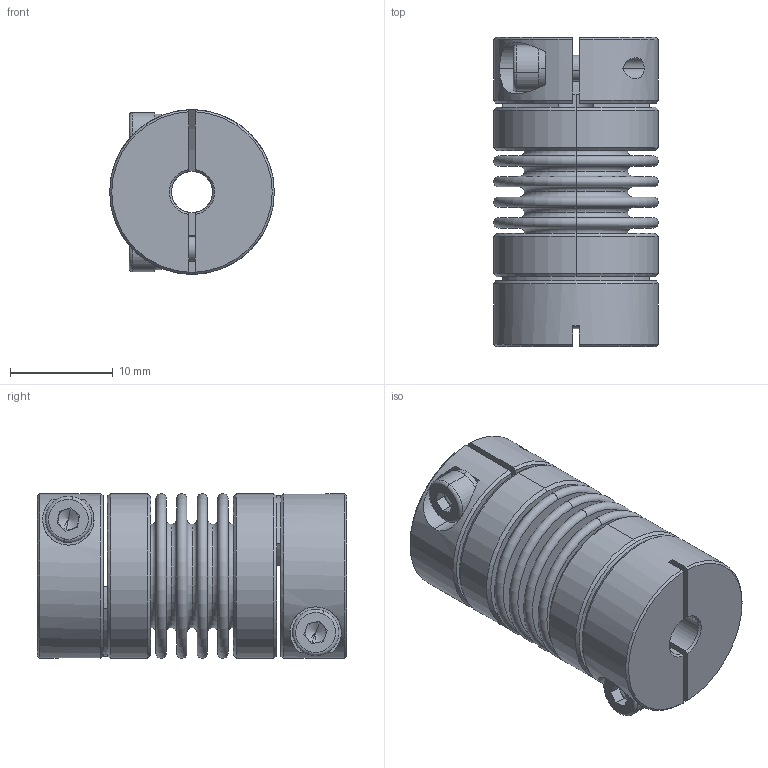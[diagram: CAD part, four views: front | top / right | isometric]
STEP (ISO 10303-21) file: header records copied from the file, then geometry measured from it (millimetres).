
FILE_DESCRIPTION (( 'STEP AP203' ), '1' );
FILE_NAME ('LB-B-D16L30-4-4.STEP', '2021-11-04T01:10:43', ( '' ), ( '' ), 'SwSTEP 2.0', 'SolidWorks 2018', '' );
FILE_SCHEMA (( 'CONFIG_CONTROL_DESIGN' ));
Length unit declared in the file: millimetre
Products named in the file (2): LB-B-D16L30-4-4; 零件1^LB-B-D16L30 波纹管联轴器-组装体
Assembly tree (1 placements, depth 2):
  LB-B-D16L30-4-4
    零件1^LB-B-D16L30 波纹管联轴器-组装体
Bounding box: 16 x 30.04 x 16 mm (x, y, z)
Volume: 3400.9 mm3; surface area: 6483.8 mm2
Topology: 1 solids, 1 shells, 254 faces, 586 edges, 362 vertices
Faces by surface type: plane 86, torus 68, cylinder 66, cone 34
Entity records: 7660 total; most frequent: CARTESIAN_POINT 1472, DIRECTION 1420, ORIENTED_EDGE 1164, AXIS2_PLACEMENT_3D 622, EDGE_CURVE 582, CIRCLE 364, VERTEX_POINT 362, EDGE_LOOP 296
